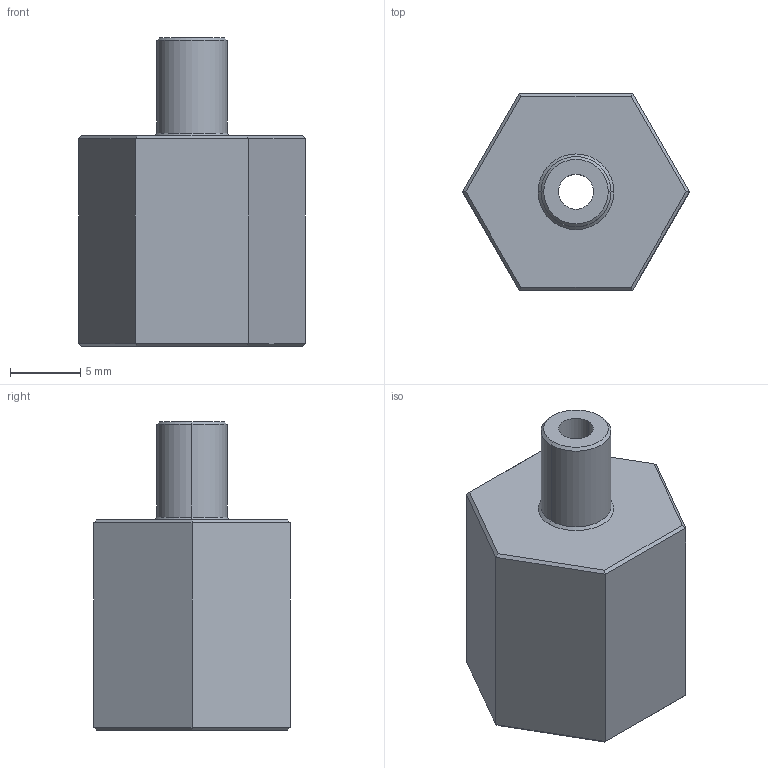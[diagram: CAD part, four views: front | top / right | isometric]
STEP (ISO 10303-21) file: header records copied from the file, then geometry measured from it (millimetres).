
FILE_DESCRIPTION (( 'STEP AP214' ), '1' );
FILE_NAME ('VM-M5M-G18F.STEP', '2023-03-07T09:26:01', ( 'Windows User' ), ( 'P R C' ), 'SwSTEP 2.0', 'SolidWorks 2019', '' );
FILE_SCHEMA (( 'AUTOMOTIVE_DESIGN' ));
Length unit declared in the file: millimetre
Products named in the file (1): VM-M5M-G18F
Bounding box: 16.17 x 14 x 22 mm (x, y, z)
Volume: 1970.9 mm3; surface area: 1513.9 mm2
Topology: 1 solids, 1 shells, 35 faces, 74 edges, 42 vertices
Faces by surface type: plane 21, cone 8, cylinder 6
Entity records: 970 total; most frequent: DIRECTION 164, CARTESIAN_POINT 152, ORIENTED_EDGE 148, EDGE_CURVE 74, VECTOR 56, LINE 56, AXIS2_PLACEMENT_3D 54, VERTEX_POINT 42
